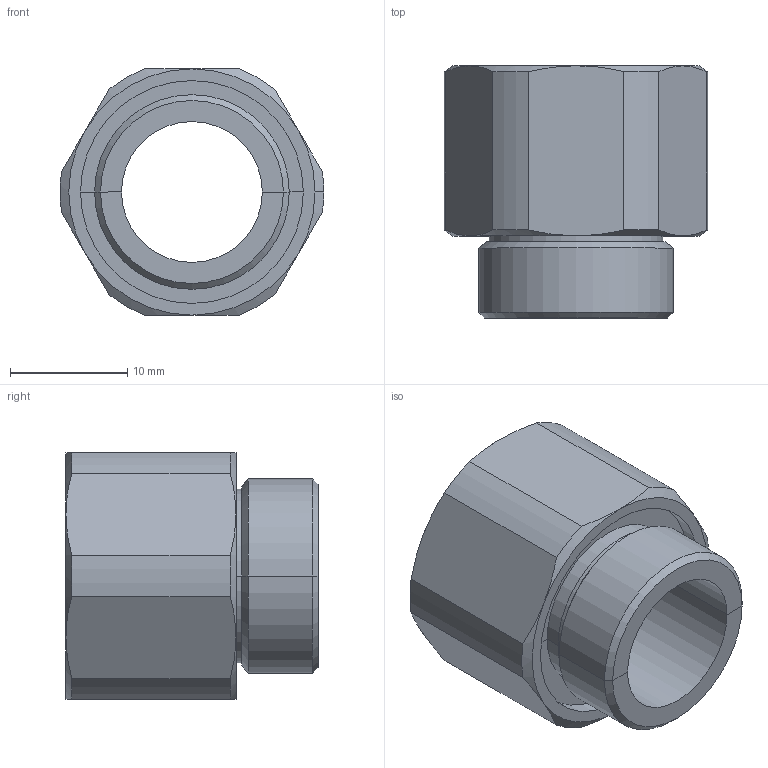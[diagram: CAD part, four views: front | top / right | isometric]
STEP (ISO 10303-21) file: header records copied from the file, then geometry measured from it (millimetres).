
FILE_DESCRIPTION(/* description */ (''),/* implementation_level */ '2;1');
FILE_NAME(/* name */ 'ADT-G14F-G38M',/* time_stamp */ '2025-11-25T18:00:20+09:00',/* author */ (''),/* organization */ (''),/* preprocessor_version */ 'ST-DEVELOPER v19.2',/* originating_system */ 'Rhino 8.21',/* authorisation */ '');
FILE_SCHEMA (('CONFIG_CONTROL_DESIGN'));
Length unit declared in the file: millimetre
Products named in the file (1): Document
Bounding box: 22.48 x 21.51 x 21 mm (x, y, z)
Volume: 4266.1 mm3; surface area: 2897.1 mm2
Topology: 1 solids, 1 shells, 58 faces, 128 edges, 72 vertices
Faces by surface type: bspline 22, cylinder 20, plane 16
Entity records: 2076 total; most frequent: CARTESIAN_POINT 881, ORIENTED_EDGE 256, DIRECTION 160, EDGE_CURVE 128, AXIS2_PLACEMENT_3D 98, VERTEX_POINT 72, B_SPLINE_CURVE_WITH_KNOTS 61, EDGE_LOOP 60
